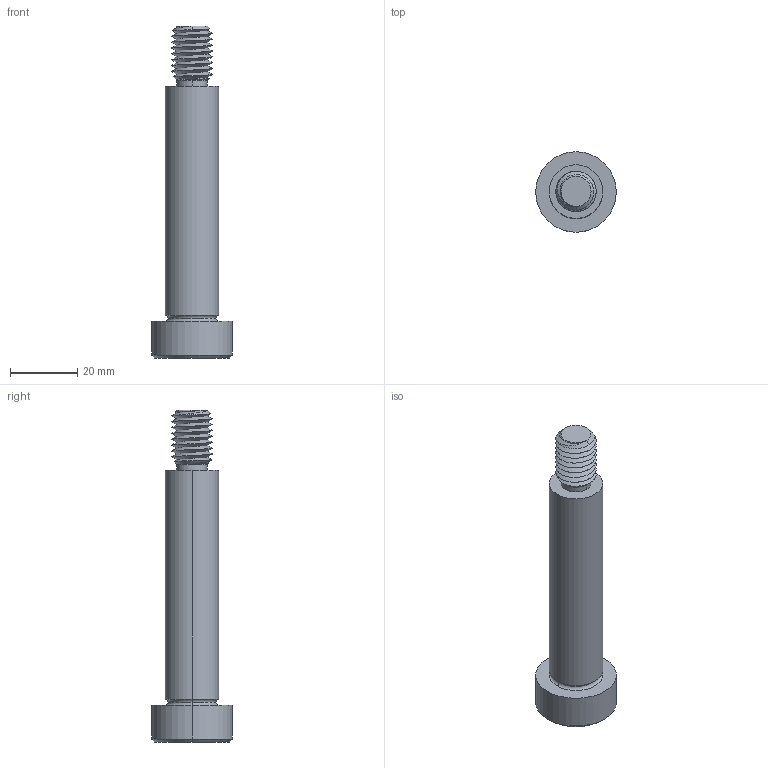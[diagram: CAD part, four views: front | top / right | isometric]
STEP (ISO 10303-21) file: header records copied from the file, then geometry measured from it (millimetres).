
FILE_DESCRIPTION (( 'STEP AP203' ), '1' );
FILE_NAME ('P0130.160-070-B2.step', '2021-11-09T22:17:55', ( '' ), ( '' ), 'SwSTEP 2.0', 'SolidWorks 2019', '' );
FILE_SCHEMA (( 'CONFIG_CONTROL_DESIGN' ));
Length unit declared in the file: millimetre
Products named in the file (1): P0130.160-070-B2
Bounding box: 24 x 24 x 99 mm (x, y, z)
Volume: 19979.5 mm3; surface area: 6561.7 mm2
Topology: 1 solids, 1 shells, 59 faces, 139 edges, 83 vertices
Faces by surface type: cylinder 22, plane 16, cone 15, torus 4, bspline 2
Entity records: 5164 total; most frequent: CARTESIAN_POINT 3839, ORIENTED_EDGE 274, DIRECTION 244, EDGE_CURVE 137, AXIS2_PLACEMENT_3D 98, VERTEX_POINT 83, EDGE_LOOP 62, ADVANCED_FACE 59
